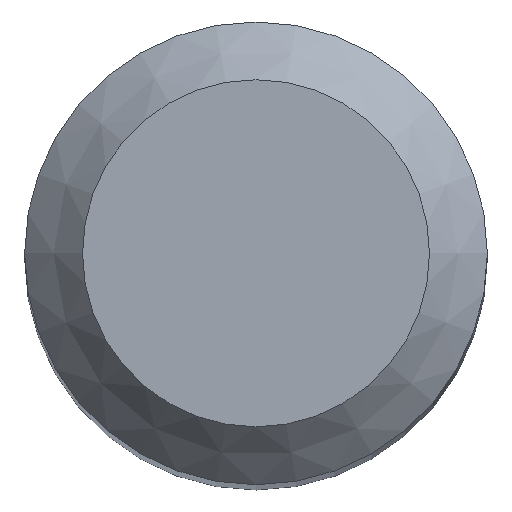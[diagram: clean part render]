
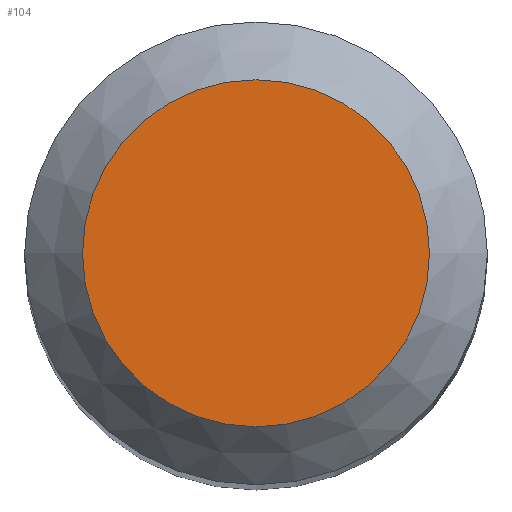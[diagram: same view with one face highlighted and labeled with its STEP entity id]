
A CAD part, top view. The second image highlights one B-rep face of the part: STEP entity #104.
In plain terms, the highlighted planar face has unit normal (0, 0, 1).
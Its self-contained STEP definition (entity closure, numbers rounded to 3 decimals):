
#88=CARTESIAN_POINT('',(1.5,0.0,35.0));
#89=DIRECTION('',(0.0,0.0,1.0));
#90=DIRECTION('',(1.0,0.0,0.0));
#91=AXIS2_PLACEMENT_3D('',#88,#89,#90);
#92=PLANE('',#91);
#93=CARTESIAN_POINT('',(-1.5,0.0,35.0));
#94=VERTEX_POINT('',#93);
#95=CARTESIAN_POINT('',(0.0,0.0,35.0));
#96=DIRECTION('',(0.0,0.0,-1.0));
#97=DIRECTION('',(-1.0,0.0,0.0));
#98=AXIS2_PLACEMENT_3D('',#95,#96,#97);
#99=CIRCLE('',#98,1.5);
#100=EDGE_CURVE('',#94,#94,#99,.T.);
#101=ORIENTED_EDGE('',*,*,#100,.F.);
#102=EDGE_LOOP('',(#101));
#103=FACE_OUTER_BOUND('',#102,.T.);
#104=ADVANCED_FACE('',(#103),#92,.T.);
